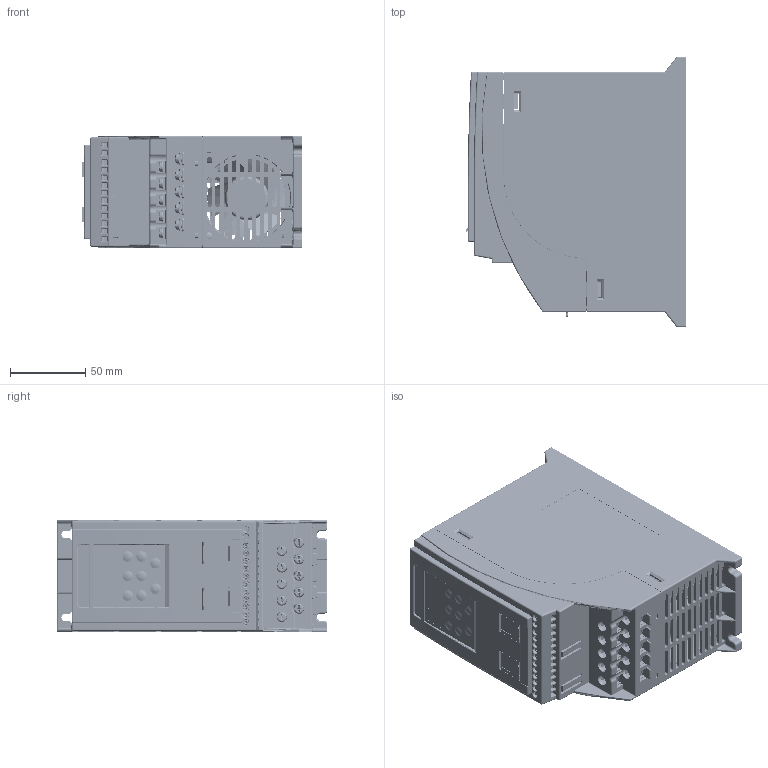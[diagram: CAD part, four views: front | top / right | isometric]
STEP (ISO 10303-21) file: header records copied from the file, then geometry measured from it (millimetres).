
FILE_DESCRIPTION((''),'2;1');
FILE_NAME('REP0013_SW0001','2016-08-09T',('c1536'),(''),'CREO PARAMETRIC BY PTC INC, 2015290','CREO PARAMETRIC BY PTC INC, 2015290','');
FILE_SCHEMA(('CONFIG_CONTROL_DESIGN'));
Products named in the file (1): REP0013_SW0001
Bounding box: 146.8 x 180 x 75 mm (x, y, z)
Volume: 420263.3 mm3; surface area: 456389.4 mm2
Topology: 6 solids, 7 shells, 20335 faces, 56801 edges, 36548 vertices
Faces by surface type: plane 13523, cylinder 4571, bspline 891, torus 722, sphere 308, cone 258, extrusion 46, revolution 16
Entity records: 997591 total; most frequent: CARTESIAN_POINT 478486, ORIENTED_EDGE 113406, DIRECTION 99304, EDGE_CURVE 56703, VECTOR 41796, LINE 41750, VERTEX_POINT 36548, AXIS2_PLACEMENT_3D 28746
